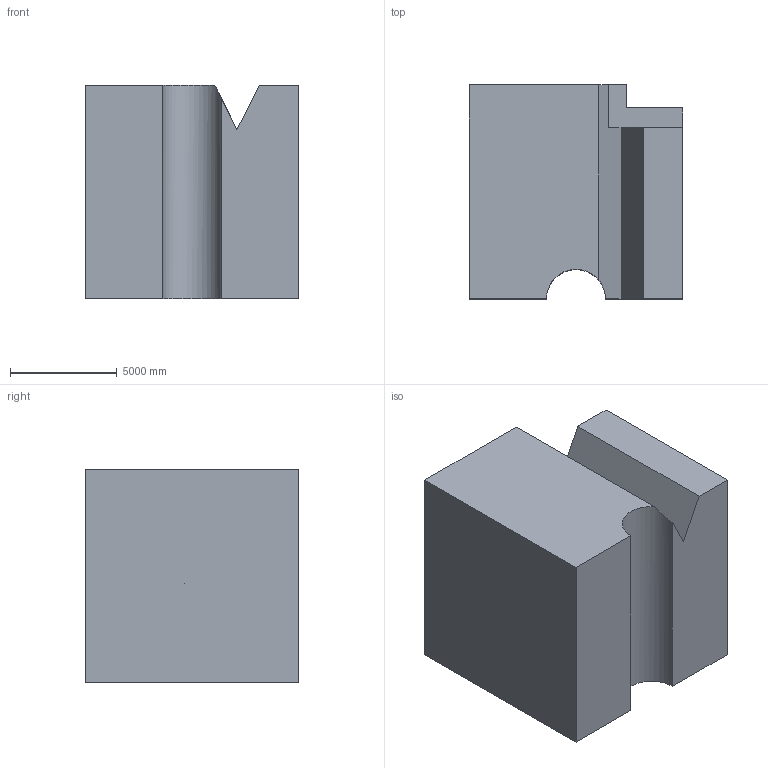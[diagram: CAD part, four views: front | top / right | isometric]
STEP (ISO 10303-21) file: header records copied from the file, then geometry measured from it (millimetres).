
FILE_DESCRIPTION (( 'STEP AP203' ), '1' );
FILE_NAME ('568.STEP', '2022-07-29T11:51:53', ( 'user' ), ( '' ), 'SwSTEP 2.0', 'SolidWorks 2021', '' );
FILE_SCHEMA (( 'CONFIG_CONTROL_DESIGN' ));
Length unit declared in the file: centimetre
Products named in the file (1): 568
Bounding box: 10000 x 10000 x 10000 mm (x, y, z)
Volume: 874176878174.4 mm3; surface area: 687746149.1 mm2
Topology: 1 solids, 1 shells, 31 faces, 84 edges, 56 vertices
Faces by surface type: plane 30, cylinder 1
Entity records: 1037 total; most frequent: CARTESIAN_POINT 175, ORIENTED_EDGE 168, DIRECTION 149, EDGE_CURVE 84, VECTOR 81, LINE 81, VERTEX_POINT 56, AXIS2_PLACEMENT_3D 34
